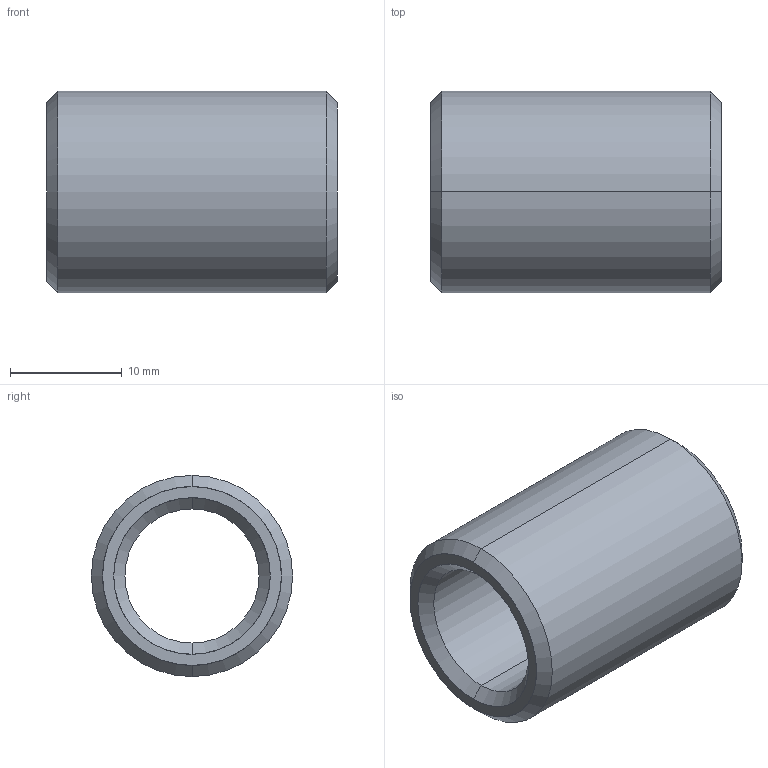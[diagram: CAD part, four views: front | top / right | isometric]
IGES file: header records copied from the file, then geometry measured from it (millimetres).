
Start section: START RECORD GO HERE.
Global section: file name: 352-12X26.igs; native system: DASSAULT SYSTEMES CATIA V5 R20 - www.3ds.com; preprocessor: CATIA Version 5 Release 20 ; author: Utente; organization: NB04-ASUS; date: 20210410.112511; units: millimetre
Bounding box: 26 x 18 x 18 mm (x, y, z)
Surface area: 2627.8 mm2 (no closed solid volume)
Topology: 0 solids, 0 shells, 14 faces, 88 edges, 88 vertices
Faces by surface type: revolution 12, plane 2
